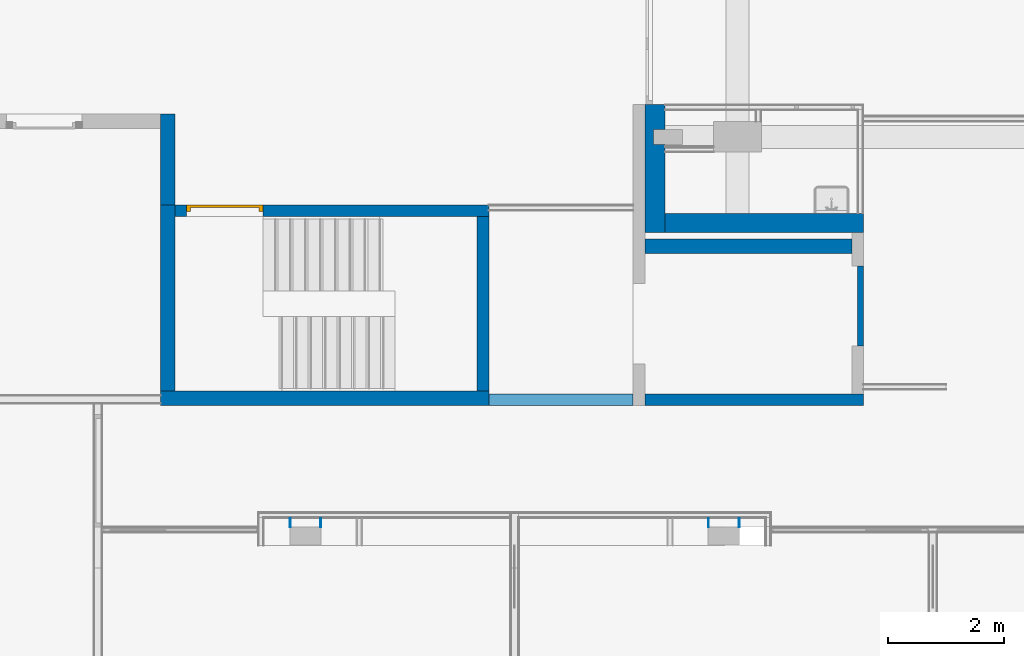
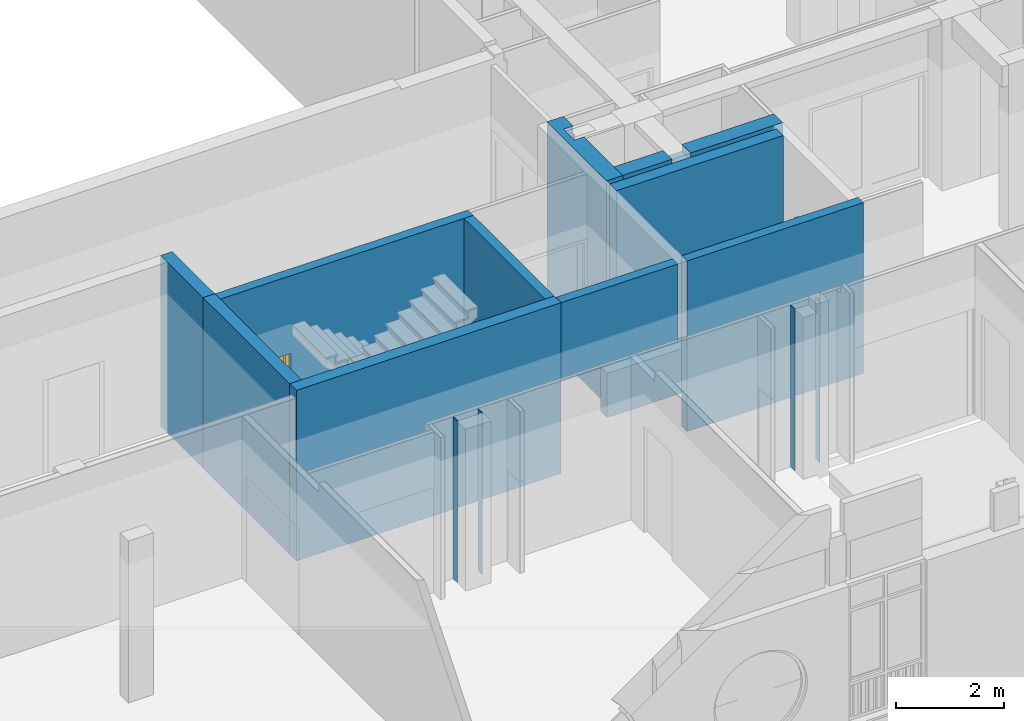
# One storey, part 83 of 135: 15 walls, 1 door, 2 openings.
"""IFC2X3 building model written with IfcOpenShell, lengths in millimetres."""

from ifc_helpers import new_model, entity, si_unit, converted_unit, derived_unit, money_unit, direction, frame, origin_with_axes, place, context, subcontext, project, spatial, faceted_brep, material, type_object, element, fill, save


model = new_model("IFC2X3")

# Units and contexts
model_context = context("Model", 3, precision=0.01, world=origin_with_axes(), true_north=direction((0.0, 1.0)))
body_context = subcontext(model_context, "Body", "Model", "MODEL_VIEW")
ifc_project = project(units=[si_unit("LENGTHUNIT", "METRE", prefix="MILLI"), si_unit("AREAUNIT", "SQUARE_METRE"), si_unit("VOLUMEUNIT", "CUBIC_METRE"), converted_unit("PLANEANGLEUNIT", "DEGREE", entity("IfcPlaneAngleMeasure", 0.0174532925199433), si_unit("PLANEANGLEUNIT", "RADIAN"), dimensions=[0, 0, 0, 0, 0, 0, 0]), money_unit("EUR"), converted_unit("TIMEUNIT", "Year", entity("IfcTimeMeasure", 31557600.0), si_unit("TIMEUNIT", "SECOND"), dimensions=[0, 0, 1, 0, 0, 0, 0]), si_unit("MASSUNIT", "GRAM", prefix="KILO"), si_unit("THERMODYNAMICTEMPERATUREUNIT", "DEGREE_CELSIUS"), si_unit("LUMINOUSINTENSITYUNIT", "LUMEN"), si_unit("ENERGYUNIT", "JOULE", prefix="MEGA"), derived_unit("THERMALCONDUCTANCEUNIT", [(si_unit("POWERUNIT", "WATT"), 1), (si_unit("LENGTHUNIT", "METRE"), -1), (si_unit("THERMODYNAMICTEMPERATUREUNIT", "KELVIN"), -1)]), derived_unit("SPECIFICHEATCAPACITYUNIT", [(si_unit("ENERGYUNIT", "JOULE"), 1), (si_unit("MASSUNIT", "GRAM", prefix="KILO"), -1), (si_unit("THERMODYNAMICTEMPERATUREUNIT", "KELVIN"), -1)]), derived_unit("MASSDENSITYUNIT", [(si_unit("MASSUNIT", "GRAM", prefix="KILO"), 1), (si_unit("VOLUMEUNIT", "CUBIC_METRE"), -1)])], contexts=[model_context])

# Site, building, storey
site_placement = place(None, origin_with_axes())
site = spatial("IfcSite", under=ifc_project, at=site_placement, Name="Site", CompositionType="ELEMENT")
building_placement = place(site_placement, origin_with_axes())
building = spatial("IfcBuilding", under=site, at=building_placement, Name="Naam gebouw", CompositionType="ELEMENT")
storey_placement = place(building_placement, origin_with_axes())
storey = spatial("IfcBuildingStorey", under=building, at=storey_placement, Name="Begane grond N", CompositionType="ELEMENT", Elevation=0.0)

# Wall, opening, door
ifc_material_1 = material(Name="ALG - CONSTRUCTIEF")
wall_type_1 = type_object("IfcWallType", Name="ALG - CONSTRUCTIEF 200", PredefinedType="NOTDEFINED")
wall_1_placement = place(storey_placement, frame((17355.50051848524, 15995.92025998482, -100.0), z_axis=(0.0, 0.0, 1.0), x_axis=(-1.0, 0.0, 0.0)))
wall_1 = element("IfcWall", 1, at=wall_1_placement, inside=storey, type_object=wall_type_1, material=ifc_material_1, Name="_Wand-x", context=body_context, shape_type="Brep", body=[
    faceted_brep([(5000.0, -200.0000000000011, 2200.0), (5000.0, -200.0000000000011, 100.0), (5199.999999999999, -200.0000000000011, 100.0), (5199.999999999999, -200.0000000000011, 3950.0), (-199.9999999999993, -200.0000000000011, 3950.0), (-199.9999999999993, -200.0000000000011, 100.0), (3685.000000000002, -200.0000000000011, 100.0), (3685.000000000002, -200.0000000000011, 2200.0), (5000.0, 0.0, 2200.0), (5000.0, 0.0, 100.0), (5199.999999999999, 0.0, 100.0), (5199.999999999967, -1.119104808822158e-10, 3950.0), (-199.9999999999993, 0.0, 3950.0), (1473.099999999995, -1.119104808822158e-10, 3950.0), (-199.9999999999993, 0.0, 100.0), (3685.000000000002, 0.0, 100.0), (3685.000000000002, 0.0, 2200.0)], [[[0, 1, 2, 3, 4, 5, 6, 7]], [[1, 0, 8, 9]], [[1, 9, 10, 2]], [[11, 3, 2, 10]], [[12, 4, 3, 11, 13]], [[4, 12, 14, 5]], [[15, 6, 5, 14]], [[7, 6, 15, 16]], [[0, 7, 16, 8]], [[16, 15, 14, 12, 13, 11, 10, 9, 8]]]),
])
opening_1_placement = place(wall_1_placement, frame((4342.500000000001, 0.0, 100.0), z_axis=(0.0, 0.0, 1.0), x_axis=(1.0, 0.0, 0.0)))
opening_1 = element("IfcOpeningElement", 2, at=opening_1_placement, cuts=wall_1, Name="_Merk-x", context=body_context, shape_type="Brep", body=[
    faceted_brep([(657.4999999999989, 0.9999999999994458, 2100.0), (657.4999999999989, 0.9999999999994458, 0.0), (-657.4999999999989, 0.9999999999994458, 0.0), (-657.4999999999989, 1.000000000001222, 2100.0), (657.4999999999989, -201.0000000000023, 2100.0), (657.4999999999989, -201.0000000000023, 0.0), (-657.4999999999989, -201.0000000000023, 0.0), (-657.4999999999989, -201.0000000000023, 2100.0)], [[[0, 1, 2, 3]], [[4, 5, 1, 0]], [[5, 6, 2, 1]], [[6, 7, 3, 2]], [[7, 4, 0, 3]], [[6, 5, 4, 7]]]),
])
door_style = type_object("IfcDoorStyle", Name="D2 27", ConstructionType="NOTDEFINED", OperationType="DOUBLE_DOOR_SINGLE_SWING", ParameterTakesPrecedence=False, Sizeable=False)
door_placement = place(opening_1_placement, frame((657.4999999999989, 0.0, 0.0), z_axis=(0.0, 0.0, 1.0), x_axis=(-1.0, 0.0, 0.0)))
door = element("IfcDoor", 3, at=door_placement, inside=storey, type_object=door_style, Name="_Merk-x", ObjectType="DOOR", OverallHeight=2100.0, OverallWidth=1315.0, context=body_context, shape_type="Brep", body=[
    faceted_brep([(1247.999999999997, 160.0000000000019, 0.0), (1247.999999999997, 86.0000000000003, 0.0), (1247.999999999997, 86.0000000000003, 2033.0), (1247.999999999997, 160.0000000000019, 2033.0), (1264.999999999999, 160.0000000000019, 0.0), (1264.999999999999, 200.0000000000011, 0.0), (1314.999999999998, 200.0000000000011, 0.0), (1314.999999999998, 86.0000000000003, 0.0), (1314.999999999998, 86.0000000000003, 2033.0), (1264.999999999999, 160.0000000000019, 2033.0), (1314.999999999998, 200.0000000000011, 2033.0), (1264.999999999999, 200.0000000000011, 2033.0)], [[[0, 1, 2, 3]], [[4, 5, 6, 7, 1, 0]], [[1, 7, 8, 2]], [[9, 3, 2, 8, 10, 11]], [[9, 4, 0, 3]], [[11, 5, 4, 9]], [[11, 10, 6, 5]], [[6, 10, 8, 7]]]),
    faceted_brep([(49.99999999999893, 160.0000000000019, 2033.0), (49.99999999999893, 200.0000000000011, 2033.0), (0.0, 200.0000000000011, 2033.0), (0.0, 86.0000000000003, 2033.0), (67.00000000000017, 86.0000000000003, 2033.0), (67.00000000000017, 160.0000000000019, 2033.0), (49.99999999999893, 160.0000000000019, 0.0), (49.99999999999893, 200.0000000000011, 0.0), (0.0, 200.0000000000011, 0.0), (0.0, 86.0000000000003, 0.0), (67.00000000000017, 86.0000000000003, 0.0), (67.00000000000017, 160.0000000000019, 0.0)], [[[0, 1, 2, 3, 4, 5]], [[0, 6, 7, 1]], [[7, 8, 2, 1]], [[2, 8, 9, 3]], [[3, 9, 10, 4]], [[5, 4, 10, 11]], [[5, 11, 6, 0]], [[6, 11, 10, 9, 8, 7]]]),
    faceted_brep([(1264.999999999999, 200.0000000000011, 2050.0), (49.99999999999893, 200.0000000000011, 2050.0), (49.99999999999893, 200.0000000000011, 2033.0), (0.0, 200.0000000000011, 2033.0), (0.0, 200.0000000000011, 2100.0), (1314.999999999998, 200.0000000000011, 2100.0), (1314.999999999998, 200.0000000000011, 2033.0), (1264.999999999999, 200.0000000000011, 2033.0), (1264.999999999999, 160.0000000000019, 2050.0), (49.99999999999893, 160.0000000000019, 2050.0), (49.99999999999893, 160.0000000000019, 2033.0), (67.00000000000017, 160.0000000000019, 2033.0), (67.00000000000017, 86.0000000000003, 2033.0), (0.0, 86.0000000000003, 2033.0), (0.0, 86.0000000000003, 2100.0), (1314.999999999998, 86.0000000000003, 2100.0), (1314.999999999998, 86.0000000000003, 2033.0), (1264.999999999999, 160.0000000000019, 2033.0), (1247.999999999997, 86.0000000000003, 2033.0), (1247.999999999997, 160.0000000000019, 2033.0)], [[[0, 1, 2, 3, 4, 5, 6, 7]], [[0, 8, 9, 1]], [[1, 9, 10, 2]], [[10, 11, 12, 13, 3, 2]], [[4, 3, 13, 14]], [[5, 4, 14, 15]], [[6, 5, 15, 16]], [[17, 7, 6, 16, 18, 19]], [[7, 17, 8, 0]], [[10, 9, 8, 17, 19, 11]], [[19, 18, 12, 11]], [[12, 18, 16, 15, 14, 13]]]),
    faceted_brep([(49.99999999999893, 200.0000000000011, 0.0), (657.4999999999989, 200.0000000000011, 0.0), (657.4999999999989, 160.0000000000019, 0.0), (49.99999999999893, 160.0000000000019, 0.0), (49.99999999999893, 200.0000000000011, 2050.0), (657.4999999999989, 200.0000000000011, 2050.0), (657.4999999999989, 160.0000000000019, 2050.0), (49.99999999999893, 160.0000000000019, 2050.0)], [[[0, 1, 2, 3]], [[0, 4, 5, 1]], [[1, 5, 6, 2]], [[3, 2, 6, 7]], [[4, 0, 3, 7]], [[5, 4, 7, 6]]]),
    faceted_brep([(1264.999999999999, 200.0000000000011, 0.0), (1264.999999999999, 160.0000000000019, 0.0), (657.4999999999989, 160.0000000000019, 0.0), (657.4999999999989, 200.0000000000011, 0.0), (1264.999999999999, 200.0000000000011, 2050.0), (1264.999999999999, 160.0000000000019, 2050.0), (657.4999999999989, 160.0000000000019, 2050.0), (657.4999999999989, 200.0000000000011, 2050.0)], [[[0, 1, 2, 3]], [[4, 5, 1, 0]], [[1, 5, 6, 2]], [[3, 2, 6, 7]], [[0, 3, 7, 4]], [[7, 6, 5, 4]]]),
])
fill(opening_1, door)

# Walls
wall_2_placement = place(storey_placement, frame((17355.50051848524, 15995.92025998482, -100.0), z_axis=(0.0, 0.0, 1.0), x_axis=(0.0, -1.0, 0.0)))
element("IfcWall", 4, at=wall_2_placement, inside=storey, type_object=wall_type_1, material=ifc_material_1, Name="_Wand-x", context=body_context, shape_type="Brep", body=[
    faceted_brep([(0.0, 0.0, 100.0), (0.0, 0.0, 3950.0), (0.0, 199.9999999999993, 3950.0), (0.0, 199.9999999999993, 100.0), (3001.312220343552, 0.0, 100.0), (3001.312220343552, 0.0, 3950.0), (3001.312220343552, 199.9999999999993, 3950.0), (3001.312220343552, 199.9999999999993, 100.0)], [[[0, 1, 2, 3]], [[4, 5, 1, 0]], [[5, 6, 2, 1]], [[3, 2, 6, 7]], [[4, 0, 3, 7]], [[7, 6, 5, 4]]]),
])
wall_3_placement = place(storey_placement, frame((24002.99999999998, 12744.60803964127, 0.0), z_axis=(0.0, 0.0, 1.0), x_axis=(-1.0, 0.0, 0.0)))
element("IfcWall", 5, at=wall_3_placement, inside=storey, type_object=wall_type_1, material=ifc_material_1, Name="_Wand-x", context=body_context, shape_type="Brep", body=[
    faceted_brep([(3762.0, -199.9999999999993, 3850.000000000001), (3762.0, 0.0, 3850.000000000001), (0.0, 0.0, 3850.000000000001), (0.0, -199.9999999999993, 3850.000000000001), (3762.0, -200.0000000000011, 0.0), (3762.0, 0.0, 0.0), (0.0, 0.0, 0.0), (0.0, -199.9999999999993, 0.0)], [[[0, 1, 2, 3]], [[1, 0, 4, 5]], [[1, 5, 6, 2]], [[7, 3, 2, 6]], [[4, 0, 3, 7]], [[5, 4, 7, 6]]]),
])

# Wall, opening
wall_4_placement = place(storey_placement, frame((20040.99999999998, 12744.60803964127, -100.0), z_axis=(0.0, 0.0, 1.0), x_axis=(-1.0, 0.0, 0.0)))
wall_4 = element("IfcWall", 6, at=wall_4_placement, inside=storey, type_object=wall_type_1, material=ifc_material_1, Name="_Wand-x", context=body_context, shape_type="Brep", body=[
    faceted_brep([(0.0, 0.0, 2200.0), (0.0, -200.0000000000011, 2200.0), (0.0, -200.0000000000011, 3950.0), (0.0, 0.0, 3950.0), (2485.499481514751, -200.0000000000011, 2200.0), (2485.499481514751, 0.0, 2200.0), (2485.499481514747, -200.0000000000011, 3950.0), (2485.499481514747, 0.0, 3950.0)], [[[0, 1, 2, 3]], [[4, 1, 0, 5]], [[1, 4, 6, 2]], [[3, 2, 6, 7]], [[5, 0, 3, 7]], [[4, 5, 7, 6]]]),
])
opening_2_placement = place(wall_4_placement, frame((1242.749740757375, 0.0, 100.0), z_axis=(0.0, 0.0, 1.0), x_axis=(1.0, 0.0, 0.0)))
element("IfcOpeningElement", 7, at=opening_2_placement, cuts=wall_4, Name="_Merk-x", context=body_context, shape_type="Brep", body=[
    faceted_brep([(1242.749740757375, 0.9999999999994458, 2100.0), (1242.749740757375, 0.9999999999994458, 0.0), (-1242.749740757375, 0.9999999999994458, 0.0), (-1242.749740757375, 1.000000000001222, 2100.0), (1242.749740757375, -201.0000000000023, 2100.0), (1242.749740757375, -201.0000000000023, 0.0), (-1242.749740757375, -201.0000000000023, 0.0), (-1242.749740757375, -201.0000000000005, 2100.0)], [[[0, 1, 2, 3]], [[4, 5, 1, 0]], [[5, 6, 2, 1]], [[6, 7, 3, 2]], [[7, 4, 0, 3]], [[6, 5, 4, 7]]]),
])

# Walls
wall_type_2 = type_object("IfcWallType", Name="ALG - CONSTRUCTIEF 250", PredefinedType="NOTDEFINED")
wall_5_placement = place(storey_placement, frame((12155.50051848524, 17515.84806644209, -100.0), z_axis=(0.0, 0.0, 1.0), x_axis=(0.0, -1.0, 0.0)))
element("IfcWall", 8, at=wall_5_placement, inside=storey, type_object=wall_type_2, material=ifc_material_1, Name="_Wand-x", context=body_context, shape_type="Brep", body=[
    faceted_brep([(1319.927806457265, -250.0, 100.0), (1319.927806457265, -250.0, 3950.0), (0.0, -250.0, 3950.0), (-250.0, -250.0, 3950.0), (-250.0, -250.0, 100.0), (0.0, -250.0, 100.0), (1319.927806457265, 0.0, 100.0), (1319.927806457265, 0.0, 3950.0), (0.0, 0.0, 3950.0), (-250.0, 0.0, 3950.0), (-250.0, 0.0, 100.0), (0.0, 0.0, 100.0)], [[[0, 1, 2, 3, 4, 5]], [[6, 7, 1, 0]], [[1, 7, 8, 9, 3, 2]], [[10, 4, 3, 9]], [[10, 11, 6, 0, 5, 4]], [[9, 8, 7, 6, 11, 10]]]),
])
wall_6_placement = place(storey_placement, frame((20040.99999999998, 15481.60803964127, -1200.0), z_axis=(0.0, 0.0, 1.0), x_axis=(1.0, 0.0, 0.0)))
element("IfcWall", 9, at=wall_6_placement, inside=storey, type_object=wall_type_2, material=ifc_material_1, Name="_Wand-x", context=body_context, shape_type="Brep", body=[
    faceted_brep([(0.0, 125.0, 0.0), (0.0, 125.0, 1000.0), (3762.0, 125.0, 1000.0), (3762.0, 125.0, 0.0), (0.0, -125.0, 0.0), (0.0, -125.0, 1000.0), (3762.0, -125.0, 1000.0), (3762.0, -125.0, 0.0)], [[[0, 1, 2, 3]], [[4, 5, 1, 0]], [[5, 6, 2, 1]], [[3, 2, 6, 7]], [[7, 4, 0, 3]], [[7, 6, 5, 4]]]),
    faceted_brep([(199.9999999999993, 125.0, 1200.0), (199.9999999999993, 125.0, 5050.000000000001), (3762.0, 125.0, 5050.000000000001), (3762.0, 125.0, 1200.0), (199.9999999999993, -125.0, 1200.0), (199.9999999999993, -125.0, 5050.000000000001), (3762.0, -125.0, 5050.000000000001), (3762.0, -125.0, 1200.0)], [[[0, 1, 2, 3]], [[4, 5, 1, 0]], [[5, 6, 2, 1]], [[3, 2, 6, 7]], [[4, 0, 3, 7]], [[7, 6, 5, 4]]]),
])
wall_7_placement = place(storey_placement, frame((12155.50051848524, 16195.92025998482, -100.0), z_axis=(0.0, 0.0, 1.0), x_axis=(0.0, -1.0, 0.0)))
element("IfcWall", 10, at=wall_7_placement, inside=storey, type_object=wall_type_2, material=ifc_material_1, Name="_Wand-x", context=body_context, shape_type="Brep", body=[
    faceted_brep([(0.0, -250.0, 100.0), (0.0, -250.0, 3950.0), (0.0, 0.0, 3950.0), (0.0, 0.0, 100.0), (3201.312220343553, -250.0, 100.0), (3201.312220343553, -250.0, 3950.0), (3201.312220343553, 0.0, 3950.0), (199.9999999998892, 0.0, 3950.0), (3201.312220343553, 0.0, 100.0)], [[[0, 1, 2, 3]], [[4, 5, 1, 0]], [[6, 7, 2, 1, 5]], [[2, 7, 6, 8, 3]], [[4, 0, 3, 8]], [[8, 6, 5, 4]]]),
])
wall_8_placement = place(storey_placement, frame((17555.50051848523, 12744.60803964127, -100.0), z_axis=(0.0, 0.0, 1.0), x_axis=(-1.0, 0.0, 0.0)))
element("IfcWall", 11, at=wall_8_placement, inside=storey, type_object=wall_type_2, material=ifc_material_1, Name="_Wand-x", context=body_context, shape_type="Brep", body=[
    faceted_brep([(5399.999999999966, -249.9999999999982, 3950.0), (1614.999999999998, -249.9999999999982, 3950.0), (0.0, -249.9999999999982, 3950.0), (0.0, -249.9999999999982, 100.0), (5649.999999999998, -249.9999999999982, 100.0), (5649.999999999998, -249.9999999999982, 3950.0), (5649.999999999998, 0.0, 3950.0), (0.0, 0.0, 3950.0), (0.0, 0.0, 100.0), (5649.999999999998, 0.0, 100.0)], [[[0, 1, 2, 3, 4, 5]], [[6, 7, 2, 1, 0, 5]], [[3, 2, 7, 8]], [[9, 4, 3, 8]], [[9, 6, 5, 4]], [[8, 7, 6, 9]]]),
])
wall_type_3 = type_object("IfcWallType", Name="ALG - CONSTRUCTIEF 350", PredefinedType="NOTDEFINED")
wall_9_placement = place(storey_placement, frame((20240.99999999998, 17924.75122651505, -1200.0), z_axis=(0.0, 0.0, 1.0), x_axis=(0.0, -1.0, 0.0)))
element("IfcWall", 12, at=wall_9_placement, inside=storey, type_object=wall_type_3, material=ifc_material_1, Name="_Wand-x", context=body_context, shape_type="Brep", body=[
    faceted_brep([(358.8388014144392, 145.0000000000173, 4899.999999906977), (433.8388014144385, 145.0000000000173, 4899.999999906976), (433.8388014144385, 350.0000000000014, 4899.999999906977), (358.8388014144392, 350.0000000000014, 4899.999999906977), (758.8388014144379, 145.0000000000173, 4899.999999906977), (683.8388014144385, 145.0000000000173, 4899.999999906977), (683.8388014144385, 145.0000000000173, 1200.0), (433.8388014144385, 145.0000000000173, 1200.0), (358.8388014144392, 145.0000000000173, 5050.000000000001), (758.8388014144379, 145.0000000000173, 5050.000000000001), (433.8388014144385, 350.0000000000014, 1200.0), (0.0, 350.0000000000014, 1200.0), (0.0, 350.0000000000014, 5050.000000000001), (358.8388014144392, 350.0000000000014, 5050.000000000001), (758.8388014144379, 350.0000000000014, 4899.999999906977), (683.8388014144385, 350.0000000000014, 4899.999999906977), (683.8388014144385, 350.0000000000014, 1200.0), (2200.338801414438, 350.0000000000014, 1200.0), (2200.338801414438, 0.0, 1200.0), (0.0, 0.0, 1200.0), (2037.838801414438, 350.0000000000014, 5050.000000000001), (758.8388014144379, 350.0000000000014, 5050.000000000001), (0.0, 295.0000000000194, 5050.000000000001), (0.0, 0.0, 5050.000000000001), (2037.838801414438, 0.0, 5050.000000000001), (2200.338801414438, 0.0, 5050.000000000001), (2200.338801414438, 350.0000000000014, 5050.000000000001)], [[[0, 1, 2, 3]], [[4, 5, 6, 7, 1, 0, 8, 9]], [[7, 10, 2, 1]], [[3, 2, 10, 11, 12, 13]], [[8, 0, 3, 13]], [[14, 15, 5, 4]], [[6, 5, 15, 16]], [[7, 6, 16, 17, 18, 19, 11, 10]], [[20, 21, 9, 8, 13, 12, 22, 23, 24, 25, 26]], [[14, 4, 9, 21]], [[12, 11, 19, 23, 22]], [[17, 16, 15, 14, 21, 20, 26]], [[17, 26, 25, 18]], [[19, 18, 25, 24, 23]]]),
    faceted_brep([(0.0, 0.0, 0.0), (0.0, 0.0, 1000.0), (0.0, 350.0000000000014, 999.9999999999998), (0.0, 350.0000000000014, 0.0), (2200.338801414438, 0.0, 0.0), (2200.338801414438, 0.0, 1000.0), (2200.338801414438, 350.0000000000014, 999.9999999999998), (2200.338801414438, 350.0000000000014, 0.0)], [[[0, 1, 2, 3]], [[4, 5, 1, 0]], [[5, 6, 2, 1]], [[3, 2, 6, 7]], [[0, 3, 7, 4]], [[7, 6, 5, 4]]]),
])
ifc_material_2 = material(Name="Steen - Betonblok")
wall_type_4 = type_object("IfcWallType", Name="Steen - Betonblok 100", PredefinedType="NOTDEFINED")
wall_10_placement = place(storey_placement, frame((24002.99999999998, 13765.37242633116, 0.0), z_axis=(0.0, 0.0, 1.0), x_axis=(0.0, 1.0, 0.0)))
element("IfcWall", 13, at=wall_10_placement, inside=storey, type_object=wall_type_4, material=ifc_material_2, Name="_Wand-x", context=body_context, shape_type="Brep", body=[
    faceted_brep([(0.0, 0.0, 2100.0), (1379.999999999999, 0.0, 2100.0), (1379.999999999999, 100.0000000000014, 2100.0), (0.0, 100.0000000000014, 2100.0), (0.0, 0.0, 0.0), (1379.999999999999, 0.0, 0.0), (1379.999999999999, 100.0000000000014, 0.0), (0.0, 100.0000000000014, 0.0)], [[[0, 1, 2, 3]], [[4, 5, 1, 0]], [[2, 1, 5, 6]], [[3, 2, 6, 7]], [[4, 0, 3, 7]], [[7, 6, 5, 4]]]),
])
ifc_material_3 = material(Name="Gipsplaat")
wall_type_5 = type_object("IfcWallType", Name="Metalstud 100 enkel 100", PredefinedType="NOTDEFINED")
wall_11_placement = place(storey_placement, frame((14670.0, 10650.91242510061, 0.0), z_axis=(0.0, 0.0, 1.0), x_axis=(0.0, 1.0, 0.0)))
element("IfcWall", 14, at=wall_11_placement, inside=storey, type_object=wall_type_5, material=ifc_material_3, Name="_Wand-x", context=body_context, shape_type="Brep", body=[
    faceted_brep([(155.0000000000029, 0.0, 0.0), (155.0000000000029, 12.49999999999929, 0.0), (155.0000000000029, 12.50000000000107, 3650.0), (155.0000000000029, 0.0, 3650.0), (0.0, 0.0, 0.0), (0.0, 12.49999999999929, 0.0), (0.0, 12.50000000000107, 3650.0), (0.0, 0.0, 3650.0)], [[[0, 1, 2, 3]], [[4, 5, 1, 0]], [[1, 5, 6, 2]], [[2, 6, 7, 3]], [[4, 0, 3, 7]], [[5, 4, 7, 6]]]),
])
wall_12_placement = place(storey_placement, frame((21869.99999999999, 10650.91242510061, 0.0), z_axis=(0.0, 0.0, 1.0), x_axis=(0.0, 1.0, 0.0)))
element("IfcWall", 15, at=wall_12_placement, inside=storey, type_object=wall_type_5, material=ifc_material_3, Name="_Wand-x", context=body_context, shape_type="Brep", body=[
    faceted_brep([(155.0000000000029, 0.0, 0.0), (155.0000000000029, 12.49999999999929, 0.0), (155.0000000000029, 12.49999999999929, 3650.0), (155.0000000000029, 0.0, 3650.0), (0.0, 0.0, 0.0), (0.0, 12.49999999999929, 0.0), (0.0, 12.49999999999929, 3850.0), (10.00000000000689, 12.49999999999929, 3850.0), (10.00000000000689, 12.49999999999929, 3650.0), (10.00000000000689, 0.0, 3650.0), (10.00000000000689, 0.0, 3850.0), (0.0, 0.0, 3850.0)], [[[0, 1, 2, 3]], [[4, 5, 1, 0]], [[6, 7, 8, 2, 1, 5]], [[2, 8, 9, 3]], [[0, 3, 9, 10, 11, 4]], [[5, 4, 11, 6]], [[6, 11, 10, 7]], [[9, 8, 7, 10]]]),
])
for number, where, z_axis, x_axis, name in (
    (16, (21330.0, 10650.91242510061, 0.0), (0.0, 0.0, 1.0), (0.0, 1.0, 0.0), "_Wand-x"),
    (17, (14130.0, 10650.91242510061, 0.0), (0.0, 0.0, 1.0), (0.0, 1.0, 0.0), "_Wand-x"),
):
    element("IfcWall", number, at=place(storey_placement, frame(where, z_axis=z_axis, x_axis=x_axis)), inside=storey, type_object=wall_type_5, material=ifc_material_3, Name=name, context=body_context, shape_type="Brep", body=[
        faceted_brep([(155.0000000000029, -12.49999999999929, 0.0), (155.0000000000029, 0.0, 0.0), (155.0000000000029, 0.0, 3650.0), (155.0000000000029, -12.49999999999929, 3650.0), (0.0, -12.49999999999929, 0.0), (0.0, 0.0, 0.0), (0.0, 0.0, 3650.0), (0.0, -12.49999999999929, 3650.0)], [[[0, 1, 2, 3]], [[4, 5, 1, 0]], [[1, 5, 6, 2]], [[2, 6, 7, 3]], [[4, 0, 3, 7]], [[5, 4, 7, 6]]]),
    ])
wall_type_6 = type_object("IfcWallType", Name="ALG - CONSTRUCTIEF 325", PredefinedType="NOTDEFINED")
wall_13_placement = place(storey_placement, frame((20240.99999999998, 15886.91242510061, -1200.0), z_axis=(0.0, 0.0, 1.0), x_axis=(1.0, 0.0, 0.0)))
element("IfcWall", 18, at=wall_13_placement, inside=storey, type_object=wall_type_6, material=ifc_material_1, Name="_Wand-x", context=body_context, shape_type="Brep", body=[
    faceted_brep([(1395.000000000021, 162.5000000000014, 5050.000000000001), (1395.000000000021, 162.5000000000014, 4899.999999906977), (1795.00000000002, 162.5000000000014, 4899.999999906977), (1795.00000000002, 162.5000000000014, 5050.000000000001), (3762.0, 162.5000000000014, 5050.0), (3762.0, 162.5000000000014, 1200.0), (3562.000000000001, 162.5000000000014, 1200.0), (350.0000000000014, 162.5000000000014, 1200.0), (350.0000000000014, 162.5000000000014, 5050.000000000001), (1395.000000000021, -162.4999999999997, 4899.999999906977), (1395.000000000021, -162.4999999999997, 5050.000000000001), (1795.00000000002, -162.4999999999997, 4899.999999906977), (1795.00000000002, -162.4999999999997, 5050.000000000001), (3762.0, -162.4999999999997, 5050.0), (3762.0, -162.4999999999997, 1200.0), (3562.000000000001, -162.4999999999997, 1200.0), (350.0000000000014, -162.4999999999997, 1200.0), (350.0000000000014, -162.4999999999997, 5050.000000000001)], [[[0, 1, 2, 3, 4, 5, 6, 7, 8]], [[9, 1, 0, 10]], [[11, 2, 1, 9]], [[11, 12, 3, 2]], [[4, 3, 12, 13]], [[5, 4, 13, 14]], [[15, 16, 7, 6, 5, 14]], [[17, 8, 7, 16]], [[17, 10, 0, 8]], [[11, 9, 10, 17, 16, 15, 14, 13, 12]]]),
    faceted_brep([(350.0000000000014, 162.5000000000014, 0.0), (350.0000000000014, 162.5000000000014, 1000.0), (3562.000000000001, 162.5000000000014, 1000.0), (3562.000000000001, 162.5000000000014, 0.0), (350.0000000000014, -162.4999999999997, 0.0), (350.0000000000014, -162.4999999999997, 999.9999999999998), (3562.000000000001, -162.4999999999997, 1000.0), (3562.000000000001, -162.4999999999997, 0.0)], [[[0, 1, 2, 3]], [[4, 5, 1, 0]], [[5, 6, 2, 1]], [[3, 2, 6, 7]], [[4, 0, 3, 7]], [[7, 6, 5, 4]]]),
])

save(model, "model.ifc")
